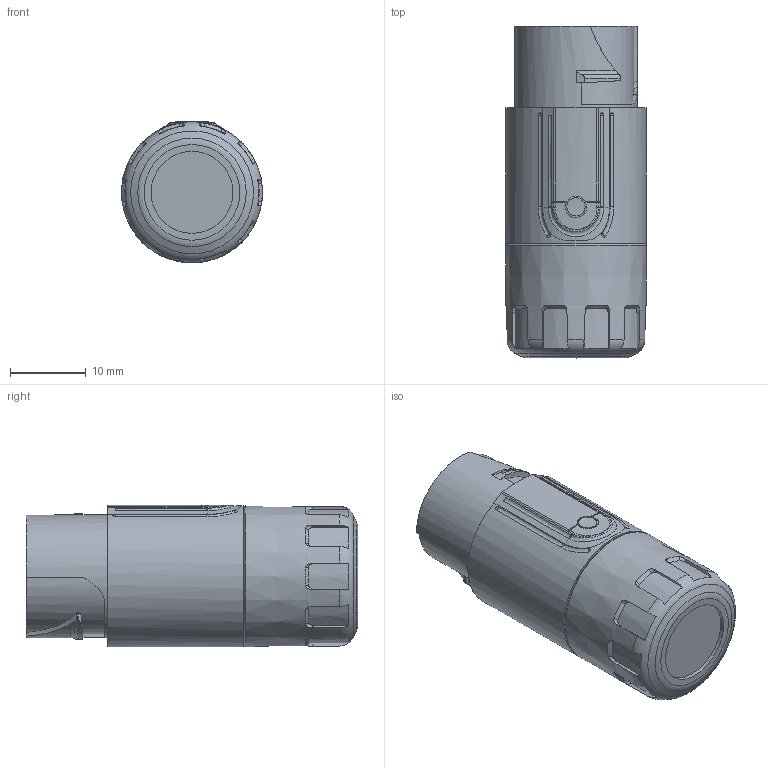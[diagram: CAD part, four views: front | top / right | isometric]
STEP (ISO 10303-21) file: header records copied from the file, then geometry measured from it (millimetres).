
FILE_DESCRIPTION(/* description */ (''),/* implementation_level */ '2;1');
FILE_NAME(/* name */ '\\isfs02.intercontec.int.\desktop$\Apfelbeck\Desktop\EKU_0500 9-polig, Stift.stp',/* time_stamp */ '2014-08-20T14:22:35+02:00',/* author */ ('apfelbeck'),/* organization */ (''),/* preprocessor_version */ 'ST-DEVELOPER v15.2',/* originating_system */ 'Autodesk Inventor 2014',/* authorisation */ '');
FILE_SCHEMA (('AUTOMOTIVE_DESIGN { 1 0 10303 214 3 1 1 }'));
Length unit declared in the file: millimetre
Products named in the file (1): 136098
Bounding box: 18.6 x 43.75 x 18.7 mm (x, y, z)
Volume: 9904.2 mm3; surface area: 4056.2 mm2
Topology: 1 solids, 1 shells, 257 faces, 692 edges, 465 vertices
Faces by surface type: plane 93, cylinder 59, bspline 58, cone 34, torus 8, sphere 5
Full cylindrical faces by diameter (mm): 1 x9, 1.8 x4, 2.05 x1, 2.397 x1, 2.6 x3, 10.8 x1, 16.2 x1, 17.2 x1, 18.6 x1
Entity records: 10378 total; most frequent: CARTESIAN_POINT 4493, ORIENTED_EDGE 1288, DIRECTION 955, EDGE_CURVE 644, VERTEX_POINT 448, AXIS2_PLACEMENT_3D 417, EDGE_LOOP 312, STYLED_ITEM 256
